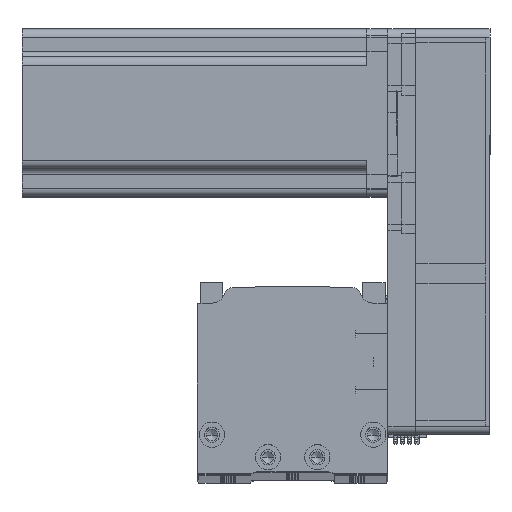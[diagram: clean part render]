
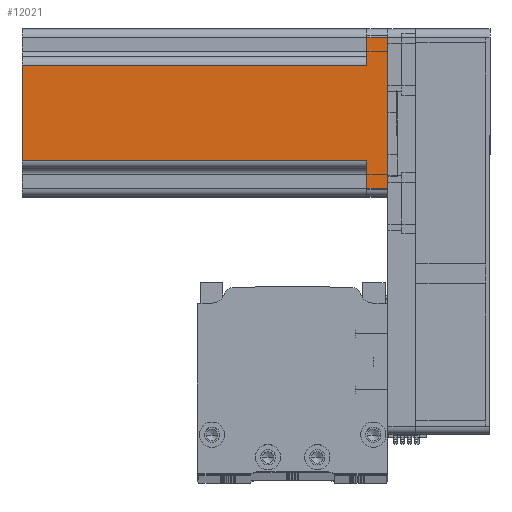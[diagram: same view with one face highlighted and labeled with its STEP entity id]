
A CAD part, top view. The second image highlights one B-rep face of the part: STEP entity #12021.
In plain terms, the highlighted planar face has unit normal (0, 0, 1) as drawn and (0, -1, 0) by its records, which use the part's own axes.
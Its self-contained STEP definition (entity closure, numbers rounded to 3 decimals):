
#2065 = CARTESIAN_POINT ( 'NONE',  ( 20., -30., 7.5 ) ) ;
#3270 = ORIENTED_EDGE ( 'NONE', *, *, #39263, .T. ) ;
#4518 = VERTEX_POINT ( 'NONE', #47374 ) ;
#4693 = EDGE_CURVE ( 'NONE', #4518, #19012, #59787, .T. ) ;
#4999 = VERTEX_POINT ( 'NONE', #36273 ) ;
#6155 = EDGE_CURVE ( 'NONE', #27842, #42490, #57859, .T. ) ;
#6665 = DIRECTION ( 'NONE',  ( -1., 0., 0. ) ) ;
#6750 = EDGE_CURVE ( 'NONE', #19012, #22938, #51098, .T. ) ;
#7428 = CARTESIAN_POINT ( 'NONE',  ( 17., -30., 130.7 ) ) ;
#8145 = ORIENTED_EDGE ( 'NONE', *, *, #6750, .T. ) ;
#8347 = ORIENTED_EDGE ( 'NONE', *, *, #32014, .T. ) ;
#8436 = AXIS2_PLACEMENT_3D ( 'NONE', #28385, #61524, #33125 ) ;
#8667 = ORIENTED_EDGE ( 'NONE', *, *, #4693, .T. ) ;
#9348 = PLANE ( 'NONE',  #8436 ) ;
#9635 = DIRECTION ( 'NONE',  ( 1., 0., 0. ) ) ;
#9969 = CARTESIAN_POINT ( 'NONE',  ( -20., -30., 7.5 ) ) ;
#10565 = ORIENTED_EDGE ( 'NONE', *, *, #6155, .T. ) ;
#12021 = ADVANCED_FACE ( 'NONE', ( #17530 ), #9348, .F. ) ;
#14176 = VERTEX_POINT ( 'NONE', #53125 ) ;
#14404 = CARTESIAN_POINT ( 'NONE',  ( -17., -30., 130.7 ) ) ;
#16074 = EDGE_CURVE ( 'NONE', #14176, #42490, #21088, .T. ) ;
#17530 = FACE_OUTER_BOUND ( 'NONE', #34471, .T. ) ;
#17939 = CARTESIAN_POINT ( 'NONE',  ( 27., -30., 0. ) ) ;
#19012 = VERTEX_POINT ( 'NONE', #36268 ) ;
#19621 = DIRECTION ( 'NONE',  ( 1., 0., 0. ) ) ;
#19970 = CARTESIAN_POINT ( 'NONE',  ( 30., -30., 0. ) ) ;
#21088 = LINE ( 'NONE', #52097, #58853 ) ;
#22524 = LINE ( 'NONE', #29009, #46272 ) ;
#22938 = VERTEX_POINT ( 'NONE', #17939 ) ;
#23087 = EDGE_CURVE ( 'NONE', #14176, #29573, #24531, .T. ) ;
#24216 = DIRECTION ( 'NONE',  ( 0., 0., 1. ) ) ;
#24531 = LINE ( 'NONE', #14404, #35575 ) ;
#27842 = VERTEX_POINT ( 'NONE', #58107 ) ;
#28385 = CARTESIAN_POINT ( 'NONE',  ( 30., -30., 130.7 ) ) ;
#28964 = LINE ( 'NONE', #2065, #52656 ) ;
#29009 = CARTESIAN_POINT ( 'NONE',  ( 27., -30., 130.7 ) ) ;
#29573 = VERTEX_POINT ( 'NONE', #50880 ) ;
#32014 = EDGE_CURVE ( 'NONE', #22938, #4999, #22524, .T. ) ;
#33125 = DIRECTION ( 'NONE',  ( -1., 0., 0. ) ) ;
#34471 = EDGE_LOOP ( 'NONE', ( #47767, #41158, #39337, #8667, #8145, #8347, #3270, #10565 ) ) ;
#34734 = VECTOR ( 'NONE', #52614, 1000. ) ;
#35575 = VECTOR ( 'NONE', #42742, 1000. ) ;
#36240 = LINE ( 'NONE', #9969, #34734 ) ;
#36268 = CARTESIAN_POINT ( 'NONE',  ( -27., -30., 0. ) ) ;
#36273 = CARTESIAN_POINT ( 'NONE',  ( 27., -30., 7.5 ) ) ;
#36758 = DIRECTION ( 'NONE',  ( 0., 0., 1. ) ) ;
#36954 = VECTOR ( 'NONE', #19621, 1000. ) ;
#36959 = CARTESIAN_POINT ( 'NONE',  ( 17., -30., 130.7 ) ) ;
#37077 = VECTOR ( 'NONE', #36758, 1000. ) ;
#39263 = EDGE_CURVE ( 'NONE', #4999, #27842, #28964, .T. ) ;
#39337 = ORIENTED_EDGE ( 'NONE', *, *, #49447, .F. ) ;
#41158 = ORIENTED_EDGE ( 'NONE', *, *, #23087, .T. ) ;
#42490 = VERTEX_POINT ( 'NONE', #7428 ) ;
#42742 = DIRECTION ( 'NONE',  ( 0., 0., -1. ) ) ;
#44118 = DIRECTION ( 'NONE',  ( 0., 0., -1. ) ) ;
#46272 = VECTOR ( 'NONE', #24216, 1000. ) ;
#47374 = CARTESIAN_POINT ( 'NONE',  ( -27., -30., 7.5 ) ) ;
#47767 = ORIENTED_EDGE ( 'NONE', *, *, #16074, .F. ) ;
#48709 = VECTOR ( 'NONE', #44118, 1000. ) ;
#49140 = CARTESIAN_POINT ( 'NONE',  ( -27., -30., 130.7 ) ) ;
#49447 = EDGE_CURVE ( 'NONE', #4518, #29573, #36240, .T. ) ;
#50880 = CARTESIAN_POINT ( 'NONE',  ( -17., -30., 7.5 ) ) ;
#51098 = LINE ( 'NONE', #19970, #36954 ) ;
#52097 = CARTESIAN_POINT ( 'NONE',  ( 30., -30., 130.7 ) ) ;
#52614 = DIRECTION ( 'NONE',  ( 1., 0., 0. ) ) ;
#52656 = VECTOR ( 'NONE', #6665, 1000. ) ;
#53125 = CARTESIAN_POINT ( 'NONE',  ( -17., -30., 130.7 ) ) ;
#57859 = LINE ( 'NONE', #36959, #37077 ) ;
#58107 = CARTESIAN_POINT ( 'NONE',  ( 17., -30., 7.5 ) ) ;
#58853 = VECTOR ( 'NONE', #9635, 1000. ) ;
#59787 = LINE ( 'NONE', #49140, #48709 ) ;
#61524 = DIRECTION ( 'NONE',  ( 0., 1., 0. ) ) ;
